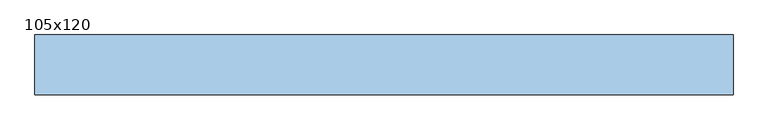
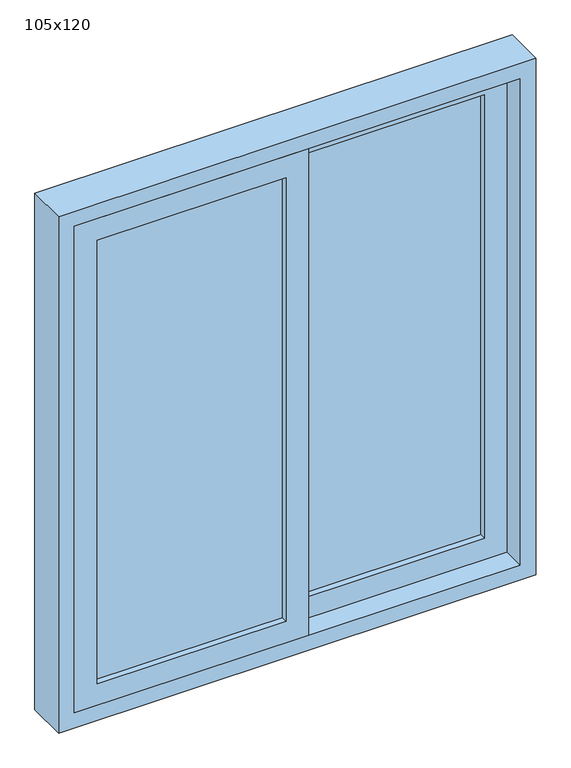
"""IFC4 building model written with IfcOpenShell, lengths in millimetres: window geometry, Janela de correr - 2 Painéis : 105x120."""

from ifc_helpers import new_model, si_unit, frame, origin, place, context, project, spatial, polyline, outline, extrude, source, transform, mapped, element, save


def window_105x120_f2d7c1f1(model_context):
    return source(origin(), model_context, "Body", "SweptSolid", [
        extrude(outline(polyline([(685.0, -25.0), (685.0, 490.0), (1815.0, 490.0), (1815.0, -25.0), (685.0, -25.0)]), holes=[polyline([(1765.0, 25.0), (1765.0, 440.0), (735.0, 440.0), (735.0, 25.0), (1765.0, 25.0)])]), frame((0.0, -20.0, 0.0), z_axis=(0.0, 1.0, 0.0), x_axis=(0.0, 0.0, 1.0)), (0.0, 0.0, 1.0), 40.0),
        extrude(outline(polyline([(1815.0, 25.0), (1815.0, -490.0), (685.0, -490.0), (685.0, 25.0), (1815.0, 25.0)]), holes=[polyline([(735.0, -25.0), (735.0, -440.0), (1765.0, -440.0), (1765.0, -25.0), (735.0, -25.0)])]), frame((0.0, -70.0, 0.0), z_axis=(0.0, 1.0, 0.0), x_axis=(0.0, 0.0, 1.0)), (0.0, 0.0, 1.0), 40.0),
        extrude(outline(polyline([(1850.0, 525.0), (1850.0, -525.0), (650.0, -525.0), (650.0, 525.0), (1850.0, 525.0)]), holes=[polyline([(685.0, 490.0), (685.0, -490.0), (1815.0, -490.0), (1815.0, 490.0), (685.0, 490.0)])]), frame((0.0, -70.0, 0.0), z_axis=(0.0, 1.0, 0.0), x_axis=(0.0, 0.0, 1.0)), (0.0, 0.0, 1.0), 90.0),
        extrude(outline(polyline([(25.0, 7.0), (440.0, 7.0), (440.0, -7.0), (25.0, -7.0), (25.0, 7.0)])), frame((0.0, 0.0, 735.0), z_axis=(0.0, 0.0, 1.0), x_axis=(1.0, 0.0, 0.0)), (0.0, 0.0, 1.0), 1030.0),
        extrude(outline(polyline([(-440.0, -43.0), (-25.0, -43.0), (-25.0, -57.0), (-440.0, -57.0), (-440.0, -43.0)])), frame((0.0, 0.0, 735.0), z_axis=(0.0, 0.0, 1.0), x_axis=(1.0, 0.0, 0.0)), (0.0, 0.0, 1.0), 1030.0),
    ])


if __name__ == "__main__":
    model = new_model("IFC4")
    model_context = context("Model", 3, world=origin())
    ifc_project = project(units=[si_unit("LENGTHUNIT", "METRE", prefix="MILLI")], contexts=[model_context])
    site = spatial("IfcSite", under=ifc_project)
    building = spatial("IfcBuilding", under=site)
    placement = place(None, origin())
    window_105x120_shape = window_105x120_f2d7c1f1(model_context)
    element("IfcWindow", 1, ObjectType="Janela de correr - 2 Painéis : 105x120", at=placement, inside=building, context=model_context, shape_type="MappedRepresentation", body=[
        mapped(window_105x120_shape, transform((0.0, 0.0, 0.0), x_axis=(1.0, 0.0, 0.0), y_axis=(0.0, 1.0, 0.0), z_axis=(0.0, 0.0, 1.0))),
    ])
    save(model, "model.ifc")
